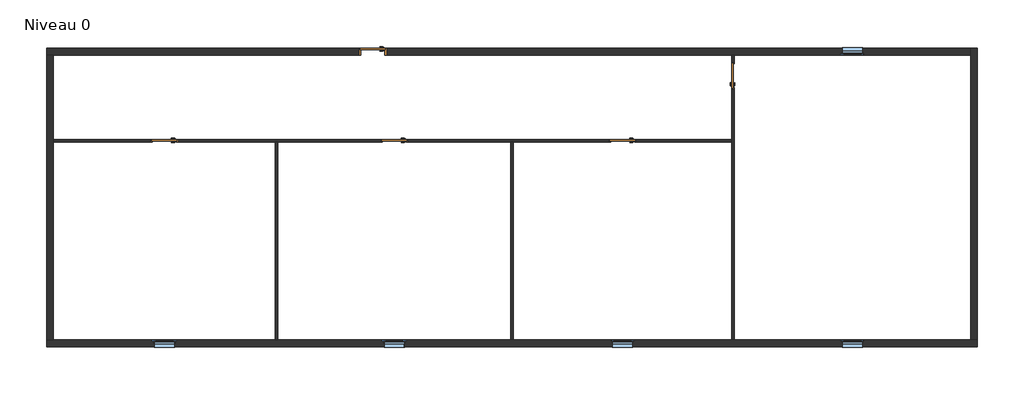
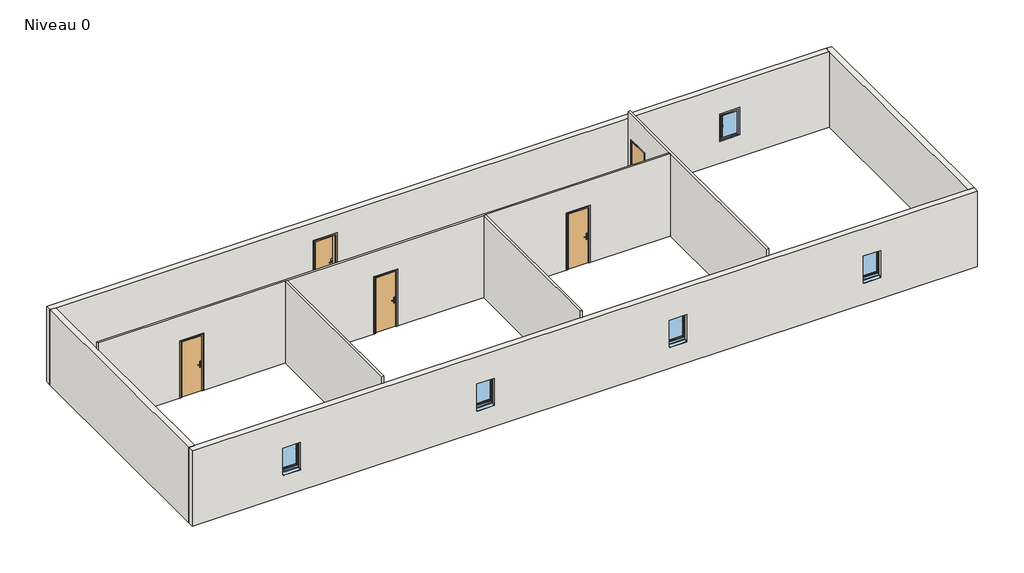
# One storey: 8 walls, 5 doors, 5 windows.
"""IFC4 building model written with IfcOpenShell, lengths in millimetres."""

from ifc_helpers import new_model, si_unit, origin, origin_with_axes, place, context, project, spatial, polyline, outline, extrude, faceted_brep, transform, mapped, element, save
from components import int_simple_pp_0_73m_x_2_04m_0234ae46, int_simple_pp_0_73m_x_2_04m_d65dadfb, int_simple_pp_0_73m_x_2_04m_83361101, window_1_vantail_droit_70fa9492

model = new_model("IFC4")

# Units and contexts
model_context = context("Model", 3, world=origin())
ifc_project = project(units=[si_unit("LENGTHUNIT", "METRE", prefix="MILLI")], contexts=[model_context])

# Site, building, storey
site = spatial("IfcSite", under=ifc_project)
building = spatial("IfcBuilding", under=site)
storey = spatial("IfcBuildingStorey", under=building, Name="Niveau 0", Elevation=0.0)

# Doors
placement = place(None, origin())
int_simple_pp_0_73m_x_2_04m_shape = int_simple_pp_0_73m_x_2_04m_0234ae46(model_context)
element("IfcDoor", 1, ObjectType="Int. Simple : PP (0.73m x 2.04m)", at=placement, inside=storey, context=model_context, shape_type="MappedRepresentation", body=[
    mapped(int_simple_pp_0_73m_x_2_04m_shape, transform((-9434.1899345, 1134.8662362, 0.0), x_axis=(-1.0, 0.0, 0.0), y_axis=(0.0, -1.0, 0.0), z_axis=(0.0, 0.0, 1.0))),
])
element("IfcDoor", 2, ObjectType="Int. Simple : PP (0.73m x 2.04m)", at=placement, inside=storey, context=model_context, shape_type="MappedRepresentation", body=[
    mapped(int_simple_pp_0_73m_x_2_04m_shape, transform((-2741.6899345, 1134.8662362, 0.0), x_axis=(-1.0, 0.0, 0.0), y_axis=(0.0, -1.0, 0.0), z_axis=(0.0, 0.0, 1.0))),
])
element("IfcDoor", 3, ObjectType="Int. Simple : PP (0.73m x 2.04m)", at=placement, inside=storey, context=model_context, shape_type="MappedRepresentation", body=[
    mapped(int_simple_pp_0_73m_x_2_04m_shape, transform((3900.8100655, 1134.8662362, 0.0), x_axis=(-1.0, 0.0, 0.0), y_axis=(0.0, -1.0, 0.0), z_axis=(0.0, 0.0, 1.0))),
])
int_simple_pp_0_73m_x_2_04m_2_shape = int_simple_pp_0_73m_x_2_04m_d65dadfb(model_context)
element("IfcDoor", 4, ObjectType="Int. Simple : PP (0.73m x 2.04m)", at=placement, inside=storey, context=model_context, shape_type="MappedRepresentation", body=[
    mapped(int_simple_pp_0_73m_x_2_04m_2_shape, transform((7153.3100655, 3069.8662362, 0.0), x_axis=(0.0, 1.0, 0.0), y_axis=(-1.0, 0.0, 0.0), z_axis=(0.0, 0.0, 1.0))),
])
int_simple_pp_0_73m_x_2_04m_3_shape = int_simple_pp_0_73m_x_2_04m_83361101(model_context)
element("IfcDoor", 5, ObjectType="Int. Simple : PP (0.73m x 2.04m)", at=placement, inside=storey, context=model_context, shape_type="MappedRepresentation", body=[
    mapped(int_simple_pp_0_73m_x_2_04m_3_shape, transform((-3366.6899345, 3734.8662362, 0.0), x_axis=(-1.0, 0.0, 0.0), y_axis=(0.0, -1.0, 0.0), z_axis=(0.0, 0.0, 1.0))),
])

# Walls
element("IfcWall", 6, ObjectType="Générique - Ext. 200 mm", at=placement, inside=storey, context=model_context, shape_type="Brep", body=[
    faceted_brep([(-12831.6899345, -4865.1337638, 0.0), (14268.3100655, -4865.1337638, 0.0), (14268.3100655, -4865.1337638, 2750.0), (-12831.6899345, -4865.1337638, 2750.0), (-9099.1899345, -4865.1337638, 1750.0), (-9099.1899345, -4865.1337638, 772.3874918), (-9699.1899345, -4865.1337638, 772.3874918), (-9699.1899345, -4865.1337638, 1750.0), (-2406.6899345, -4865.1337638, 1750.0), (-2406.6899345, -4865.1337638, 772.3874918), (-3006.6899345, -4865.1337638, 772.3874918), (-3006.6899345, -4865.1337638, 1750.0), (4235.8100655, -4865.1337638, 1750.0), (4235.8100655, -4865.1337638, 772.3874918), (3635.8100655, -4865.1337638, 772.3874918), (3635.8100655, -4865.1337638, 1750.0), (10928.3100655, -4865.1337638, 1750.0), (10928.3100655, -4865.1337638, 772.3874918), (10328.3100655, -4865.1337638, 772.3874918), (10328.3100655, -4865.1337638, 1750.0), (-12831.6899345, -4665.1337638, 0.0), (-12831.6899345, -4665.1337638, 2750.0), (-12631.6899345, -4665.1337638, 2750.0), (14068.3100655, -4665.1337638, 2750.0), (14268.3100655, -4665.1337638, 2750.0), (14268.3100655, -4665.1337638, 0.0), (14068.3100655, -4665.1337638, 0.0), (-12631.6899345, -4665.1337638, 0.0), (-9749.1899345, -4665.1337638, 800.0), (-9049.1899345, -4665.1337638, 800.0), (-9049.1899345, -4665.1337638, 1800.0), (-9749.1899345, -4665.1337638, 1800.0), (-3056.6899345, -4665.1337638, 800.0), (-2356.6899345, -4665.1337638, 800.0), (-2356.6899345, -4665.1337638, 1800.0), (-3056.6899345, -4665.1337638, 1800.0), (3585.8100655, -4665.1337638, 800.0), (4285.8100655, -4665.1337638, 800.0), (4285.8100655, -4665.1337638, 1800.0), (3585.8100655, -4665.1337638, 1800.0), (10278.3100655, -4665.1337638, 800.0), (10978.3100655, -4665.1337638, 800.0), (10978.3100655, -4665.1337638, 1800.0), (10278.3100655, -4665.1337638, 1800.0), (-9099.1899345, -4745.1337638, 800.0), (-9099.1899345, -4745.1337638, 785.0), (-9099.1899345, -4765.1337638, 1750.0), (-9099.1899345, -4765.1337638, 800.0), (-9699.1899345, -4745.1337638, 785.0), (-9699.1899345, -4745.1337638, 800.0), (-9699.1899345, -4765.1337638, 800.0), (-9699.1899345, -4765.1337638, 1750.0), (-9089.1899345, -4765.1337638, 800.0), (-9089.1899345, -4715.1337638, 800.0), (-9049.1899345, -4715.1337638, 800.0), (-9749.1899345, -4715.1337638, 800.0), (-9709.1899345, -4715.1337638, 800.0), (-9709.1899345, -4765.1337638, 800.0), (-9049.1899345, -4715.1337638, 1800.0), (-9089.1899345, -4715.1337638, 1760.0), (-9709.1899345, -4715.1337638, 1760.0), (-9749.1899345, -4715.1337638, 1800.0), (-9089.1899345, -4765.1337638, 1760.0), (-9709.1899345, -4765.1337638, 1760.0), (-2406.6899345, -4745.1337638, 800.0), (-2406.6899345, -4745.1337638, 785.0), (-2406.6899345, -4765.1337638, 1750.0), (-2406.6899345, -4765.1337638, 800.0), (-3006.6899345, -4745.1337638, 785.0), (-3006.6899345, -4745.1337638, 800.0), (-3006.6899345, -4765.1337638, 800.0), (-3006.6899345, -4765.1337638, 1750.0), (-2396.6899345, -4765.1337638, 800.0), (-2396.6899345, -4715.1337638, 800.0), (-2356.6899345, -4715.1337638, 800.0), (-3056.6899345, -4715.1337638, 800.0), (-3016.6899345, -4715.1337638, 800.0), (-3016.6899345, -4765.1337638, 800.0), (-2356.6899345, -4715.1337638, 1800.0), (-2396.6899345, -4715.1337638, 1760.0), (-3016.6899345, -4715.1337638, 1760.0), (-3056.6899345, -4715.1337638, 1800.0), (-2396.6899345, -4765.1337638, 1760.0), (-3016.6899345, -4765.1337638, 1760.0), (4235.8100655, -4745.1337638, 800.0), (4235.8100655, -4745.1337638, 785.0), (4235.8100655, -4765.1337638, 1750.0), (4235.8100655, -4765.1337638, 800.0), (3635.8100655, -4745.1337638, 785.0), (3635.8100655, -4745.1337638, 800.0), (3635.8100655, -4765.1337638, 800.0), (3635.8100655, -4765.1337638, 1750.0), (4245.8100655, -4765.1337638, 800.0), (4245.8100655, -4715.1337638, 800.0), (4285.8100655, -4715.1337638, 800.0), (3585.8100655, -4715.1337638, 800.0), (3625.8100655, -4715.1337638, 800.0), (3625.8100655, -4765.1337638, 800.0), (4285.8100655, -4715.1337638, 1800.0), (4245.8100655, -4715.1337638, 1760.0), (3625.8100655, -4715.1337638, 1760.0), (3585.8100655, -4715.1337638, 1800.0), (4245.8100655, -4765.1337638, 1760.0), (3625.8100655, -4765.1337638, 1760.0), (10928.3100655, -4745.1337638, 800.0), (10928.3100655, -4745.1337638, 785.0), (10928.3100655, -4765.1337638, 1750.0), (10928.3100655, -4765.1337638, 800.0), (10328.3100655, -4745.1337638, 785.0), (10328.3100655, -4745.1337638, 800.0), (10328.3100655, -4765.1337638, 800.0), (10328.3100655, -4765.1337638, 1750.0), (10938.3100655, -4765.1337638, 800.0), (10938.3100655, -4715.1337638, 800.0), (10978.3100655, -4715.1337638, 800.0), (10278.3100655, -4715.1337638, 800.0), (10318.3100655, -4715.1337638, 800.0), (10318.3100655, -4765.1337638, 800.0), (10978.3100655, -4715.1337638, 1800.0), (10938.3100655, -4715.1337638, 1760.0), (10318.3100655, -4715.1337638, 1760.0), (10278.3100655, -4715.1337638, 1800.0), (10938.3100655, -4765.1337638, 1760.0), (10318.3100655, -4765.1337638, 1760.0)], [[[0, 1, 2, 3], [4, 5, 6, 7], [8, 9, 10, 11], [12, 13, 14, 15], [16, 17, 18, 19]], [[20, 21, 22, 23, 24, 25, 26, 27], [28, 29, 30, 31], [32, 33, 34, 35], [36, 37, 38, 39], [40, 41, 42, 43]], [[1, 0, 20, 27, 26, 25]], [[3, 2, 24, 23, 22, 21]], [[2, 1, 25, 24]], [[0, 3, 21, 20]], [[44, 45, 5, 4, 46, 47]], [[48, 49, 50, 51, 7, 6]], [[45, 48, 6, 5]], [[45, 44, 49, 48]], [[4, 7, 51, 46]], [[49, 44, 47, 52, 53, 54, 29, 28, 55, 56, 57, 50]], [[29, 54, 58, 30]], [[54, 53, 59, 60, 56, 55, 61, 58]], [[53, 52, 62, 59]], [[52, 47, 46, 51, 50, 57, 63, 62]], [[30, 58, 61, 31]], [[60, 59, 62, 63]], [[61, 55, 28, 31]], [[56, 60, 63, 57]], [[64, 65, 9, 8, 66, 67]], [[68, 69, 70, 71, 11, 10]], [[65, 68, 10, 9]], [[65, 64, 69, 68]], [[8, 11, 71, 66]], [[69, 64, 67, 72, 73, 74, 33, 32, 75, 76, 77, 70]], [[33, 74, 78, 34]], [[74, 73, 79, 80, 76, 75, 81, 78]], [[73, 72, 82, 79]], [[72, 67, 66, 71, 70, 77, 83, 82]], [[34, 78, 81, 35]], [[80, 79, 82, 83]], [[81, 75, 32, 35]], [[76, 80, 83, 77]], [[84, 85, 13, 12, 86, 87]], [[88, 89, 90, 91, 15, 14]], [[85, 88, 14, 13]], [[85, 84, 89, 88]], [[12, 15, 91, 86]], [[89, 84, 87, 92, 93, 94, 37, 36, 95, 96, 97, 90]], [[37, 94, 98, 38]], [[94, 93, 99, 100, 96, 95, 101, 98]], [[93, 92, 102, 99]], [[92, 87, 86, 91, 90, 97, 103, 102]], [[38, 98, 101, 39]], [[100, 99, 102, 103]], [[101, 95, 36, 39]], [[96, 100, 103, 97]], [[104, 105, 17, 16, 106, 107]], [[108, 109, 110, 111, 19, 18]], [[105, 108, 18, 17]], [[105, 104, 109, 108]], [[16, 19, 111, 106]], [[109, 104, 107, 112, 113, 114, 41, 40, 115, 116, 117, 110]], [[41, 114, 118, 42]], [[114, 113, 119, 120, 116, 115, 121, 118]], [[113, 112, 122, 119]], [[112, 107, 106, 111, 110, 117, 123, 122]], [[42, 118, 121, 43]], [[120, 119, 122, 123]], [[121, 115, 40, 43]], [[116, 120, 123, 117]]]),
])
element("IfcWall", 7, ObjectType="Générique - Ext. 200 mm", at=placement, inside=storey, context=model_context, shape_type="Brep", body=[
    faceted_brep([(14268.3100655, -4665.1337638, 0.0), (14268.3100655, 3834.8662362, 0.0), (14268.3100655, 3834.8662362, 2750.0), (14268.3100655, -4665.1337638, 2750.0), (14068.3100655, -4665.1337638, 0.0), (14068.3100655, -4665.1337638, 2750.0), (14068.3100655, 3634.8662362, 2750.0), (14068.3100655, 3834.8662362, 2750.0), (14068.3100655, 3834.8662362, 0.0), (14068.3100655, 3634.8662362, 0.0)], [[[0, 1, 2, 3]], [[4, 5, 6, 7, 8, 9]], [[1, 0, 4, 9, 8]], [[3, 2, 7, 6, 5]], [[0, 3, 5, 4]], [[2, 1, 8, 7]]]),
])
element("IfcWall", 8, ObjectType="Générique - Ext. 200 mm", at=placement, inside=storey, context=model_context, shape_type="Brep", body=[
    faceted_brep([(-12831.6899345, 3834.8662362, 2750.0), (14068.3100655, 3834.8662362, 2750.0), (14068.3100655, 3834.8662362, 0.0), (-2931.6899345, 3834.8662362, 0.0), (-2931.6899345, 3834.8662362, 2075.0), (-3731.6899345, 3834.8662362, 2075.0), (-3731.6899345, 3834.8662362, 0.0), (-12831.6899345, 3834.8662362, 0.0), (10328.3100655, 3834.8662362, 1750.0), (10328.3100655, 3834.8662362, 772.3874918), (10928.3100655, 3834.8662362, 772.3874918), (10928.3100655, 3834.8662362, 1750.0), (14068.3100655, 3634.8662362, 2750.0), (-12631.6899345, 3634.8662362, 2750.0), (-12831.6899345, 3634.8662362, 2750.0), (-12831.6899345, 3634.8662362, 0.0), (-12631.6899345, 3634.8662362, 0.0), (-3731.6899345, 3634.8662362, 0.0), (-3731.6899345, 3634.8662362, 2075.0), (-2931.6899345, 3634.8662362, 2075.0), (-2931.6899345, 3634.8662362, 0.0), (14068.3100655, 3634.8662362, 0.0), (10978.3100655, 3634.8662362, 800.0), (10278.3100655, 3634.8662362, 800.0), (10278.3100655, 3634.8662362, 1800.0), (10978.3100655, 3634.8662362, 1800.0), (10328.3100655, 3714.8662362, 800.0), (10328.3100655, 3714.8662362, 785.0), (10328.3100655, 3734.8662362, 1750.0), (10328.3100655, 3734.8662362, 800.0), (10928.3100655, 3714.8662362, 785.0), (10928.3100655, 3714.8662362, 800.0), (10928.3100655, 3734.8662362, 800.0), (10928.3100655, 3734.8662362, 1750.0), (10318.3100655, 3734.8662362, 800.0), (10318.3100655, 3684.8662362, 800.0), (10278.3100655, 3684.8662362, 800.0), (10978.3100655, 3684.8662362, 800.0), (10938.3100655, 3684.8662362, 800.0), (10938.3100655, 3734.8662362, 800.0), (10278.3100655, 3684.8662362, 1800.0), (10318.3100655, 3684.8662362, 1760.0), (10938.3100655, 3684.8662362, 1760.0), (10978.3100655, 3684.8662362, 1800.0), (10318.3100655, 3734.8662362, 1760.0), (10938.3100655, 3734.8662362, 1760.0)], [[[0, 1, 2, 3, 4, 5, 6, 7], [8, 9, 10, 11]], [[12, 13, 14, 15, 16, 17, 18, 19, 20, 21], [22, 23, 24, 25]], [[2, 21, 20, 3]], [[15, 7, 6, 17, 16]], [[1, 0, 14, 13, 12]], [[2, 1, 12, 21]], [[0, 7, 15, 14]], [[5, 18, 17, 6]], [[18, 5, 4, 19]], [[19, 4, 3, 20]], [[26, 27, 9, 8, 28, 29]], [[30, 31, 32, 33, 11, 10]], [[27, 30, 10, 9]], [[27, 26, 31, 30]], [[8, 11, 33, 28]], [[31, 26, 29, 34, 35, 36, 23, 22, 37, 38, 39, 32]], [[23, 36, 40, 24]], [[36, 35, 41, 42, 38, 37, 43, 40]], [[35, 34, 44, 41]], [[34, 29, 28, 33, 32, 39, 45, 44]], [[24, 40, 43, 25]], [[42, 41, 44, 45]], [[43, 37, 22, 25]], [[38, 42, 45, 39]]]),
])
element("IfcWall", 9, ObjectType="Générique - Ext. 200 mm", at=placement, inside=storey, context=model_context, shape_type="SweptSolid", body=[
    extrude(outline(polyline([(-12831.6899345, -4665.1337638), (-12831.6899345, 3634.8662362), (-12631.6899345, 3634.8662362), (-12631.6899345, -4665.1337638), (-12831.6899345, -4665.1337638)])), origin_with_axes(), (0.0, 0.0, 1.0), 2750.0),
])
element("IfcWall", 10, ObjectType="Générique - Int. 70 mm", at=placement, inside=storey, context=model_context, shape_type="SweptSolid", body=[
    extrude(outline(polyline([(-6096.6899345, 1099.8662362), (-6096.6899345, -4665.1337638), (-6166.6899345, -4665.1337638), (-6166.6899345, 1099.8662362), (-6096.6899345, 1099.8662362)])), origin_with_axes(), (0.0, 0.0, 1.0), 3000.0),
])
element("IfcWall", 11, ObjectType="Générique - Int. 70 mm", at=placement, inside=storey, context=model_context, shape_type="SweptSolid", body=[
    extrude(outline(polyline([(753.3100655, 1099.8662362), (753.3100655, -4665.1337638), (683.3100655, -4665.1337638), (683.3100655, 1099.8662362), (753.3100655, 1099.8662362)])), origin_with_axes(), (0.0, 0.0, 1.0), 3000.0),
])
element("IfcWall", 12, ObjectType="Générique - Int. 70 mm", at=placement, inside=storey, context=model_context, shape_type="Brep", body=[
    faceted_brep([(7188.3100655, 3634.8662362, 3000.0), (7188.3100655, -4665.1337638, 3000.0), (7188.3100655, -4665.1337638, 0.0), (7188.3100655, 2634.8662362, 0.0), (7188.3100655, 2634.8662362, 2075.0), (7188.3100655, 3434.8662362, 2075.0), (7188.3100655, 3434.8662362, 0.0), (7188.3100655, 3634.8662362, 0.0), (7118.3100655, -4665.1337638, 3000.0), (7118.3100655, 1099.8662362, 3000.0), (7118.3100655, 1169.8662362, 3000.0), (7118.3100655, 3634.8662362, 3000.0), (7118.3100655, 3634.8662362, 0.0), (7118.3100655, 3434.8662362, 0.0), (7118.3100655, 3434.8662362, 2075.0), (7118.3100655, 2634.8662362, 2075.0), (7118.3100655, 2634.8662362, 0.0), (7118.3100655, 1169.8662362, 0.0), (7118.3100655, 1099.8662362, 0.0), (7118.3100655, -4665.1337638, 0.0)], [[[0, 1, 2, 3, 4, 5, 6, 7]], [[8, 9, 10, 11, 12, 13, 14, 15, 16, 17, 18, 19]], [[2, 19, 18, 17, 16, 3]], [[12, 7, 6, 13]], [[1, 0, 11, 10, 9, 8]], [[2, 1, 8, 19]], [[0, 7, 12, 11]], [[5, 14, 13, 6]], [[14, 5, 4, 15]], [[15, 4, 3, 16]]]),
])
element("IfcWall", 13, ObjectType="Générique - Int. 70 mm", at=placement, inside=storey, context=model_context, shape_type="Brep", body=[
    faceted_brep([(7118.3100655, 1099.8662362, 3000.0), (753.3100655, 1099.8662362, 3000.0), (683.3100655, 1099.8662362, 3000.0), (-6096.6899345, 1099.8662362, 3000.0), (-6166.6899345, 1099.8662362, 3000.0), (-12631.6899345, 1099.8662362, 3000.0), (-12631.6899345, 1099.8662362, 0.0), (-9799.1899345, 1099.8662362, 0.0), (-9799.1899345, 1099.8662362, 2075.0), (-8999.1899345, 1099.8662362, 2075.0), (-8999.1899345, 1099.8662362, 0.0), (-6166.6899345, 1099.8662362, 0.0), (-6096.6899345, 1099.8662362, 0.0), (-3106.6899345, 1099.8662362, 0.0), (-3106.6899345, 1099.8662362, 2075.0), (-2306.6899345, 1099.8662362, 2075.0), (-2306.6899345, 1099.8662362, 0.0), (683.3100655, 1099.8662362, 0.0), (753.3100655, 1099.8662362, 0.0), (3535.8100655, 1099.8662362, 0.0), (3535.8100655, 1099.8662362, 2075.0), (4335.8100655, 1099.8662362, 2075.0), (4335.8100655, 1099.8662362, 0.0), (7118.3100655, 1099.8662362, 0.0), (-12631.6899345, 1169.8662362, 3000.0), (7118.3100655, 1169.8662362, 3000.0), (7118.3100655, 1169.8662362, 0.0), (4335.8100655, 1169.8662362, 0.0), (4335.8100655, 1169.8662362, 2075.0), (3535.8100655, 1169.8662362, 2075.0), (3535.8100655, 1169.8662362, 0.0), (-2306.6899345, 1169.8662362, 0.0), (-2306.6899345, 1169.8662362, 2075.0), (-3106.6899345, 1169.8662362, 2075.0), (-3106.6899345, 1169.8662362, 0.0), (-8999.1899345, 1169.8662362, 0.0), (-8999.1899345, 1169.8662362, 2075.0), (-9799.1899345, 1169.8662362, 2075.0), (-9799.1899345, 1169.8662362, 0.0), (-12631.6899345, 1169.8662362, 0.0)], [[[0, 1, 2, 3, 4, 5, 6, 7, 8, 9, 10, 11, 12, 13, 14, 15, 16, 17, 18, 19, 20, 21, 22, 23]], [[24, 25, 26, 27, 28, 29, 30, 31, 32, 33, 34, 35, 36, 37, 38, 39]], [[6, 39, 38, 7]], [[26, 23, 22, 27]], [[10, 35, 34, 13, 12, 11]], [[16, 31, 30, 19, 18, 17]], [[5, 4, 3, 2, 1, 0, 25, 24]], [[6, 5, 24, 39]], [[0, 23, 26, 25]], [[37, 8, 7, 38]], [[8, 37, 36, 9]], [[9, 36, 35, 10]], [[33, 14, 13, 34]], [[14, 33, 32, 15]], [[15, 32, 31, 16]], [[29, 20, 19, 30]], [[20, 29, 28, 21]], [[21, 28, 27, 22]]]),
])

# Windows
window_1_vantail_droit_shape = window_1_vantail_droit_70fa9492(model_context)
element("IfcWindow", 14, ObjectType="1 Vantail - Droit : 0.60 m x 0.95 m - Appui en aluminium", at=placement, inside=storey, context=model_context, shape_type="MappedRepresentation", body=[
    mapped(window_1_vantail_droit_shape, transform((-9399.1899345, -4765.1337638, 0.0), x_axis=(-1.0, 0.0, 0.0), y_axis=(0.0, -1.0, 0.0), z_axis=(0.0, 0.0, 1.0))),
])
element("IfcWindow", 15, ObjectType="1 Vantail - Droit : 0.60 m x 0.95 m - Appui en aluminium", at=placement, inside=storey, context=model_context, shape_type="MappedRepresentation", body=[
    mapped(window_1_vantail_droit_shape, transform((-2706.6899345, -4765.1337638, 0.0), x_axis=(-1.0, 0.0, 0.0), y_axis=(0.0, -1.0, 0.0), z_axis=(0.0, 0.0, 1.0))),
])
element("IfcWindow", 16, ObjectType="1 Vantail - Droit : 0.60 m x 0.95 m - Appui en aluminium", at=placement, inside=storey, context=model_context, shape_type="MappedRepresentation", body=[
    mapped(window_1_vantail_droit_shape, transform((3935.8100655, -4765.1337638, 0.0), x_axis=(-1.0, 0.0, 0.0), y_axis=(0.0, -1.0, 0.0), z_axis=(0.0, 0.0, 1.0))),
])
element("IfcWindow", 17, ObjectType="1 Vantail - Droit : 0.60 m x 0.95 m - Appui en aluminium", at=placement, inside=storey, context=model_context, shape_type="MappedRepresentation", body=[
    mapped(window_1_vantail_droit_shape, transform((10628.3100655, -4765.1337638, 0.0), x_axis=(-1.0, 0.0, 0.0), y_axis=(0.0, -1.0, 0.0), z_axis=(0.0, 0.0, 1.0))),
])
element("IfcWindow", 18, ObjectType="1 Vantail - Droit : 0.60 m x 0.95 m - Appui en aluminium", at=placement, inside=storey, context=model_context, shape_type="MappedRepresentation", body=[
    mapped(window_1_vantail_droit_shape, transform((10628.3100655, 3734.8662362, 0.0), x_axis=(1.0, 0.0, 0.0), y_axis=(0.0, 1.0, 0.0), z_axis=(0.0, 0.0, 1.0))),
])

save(model, "model.ifc")
